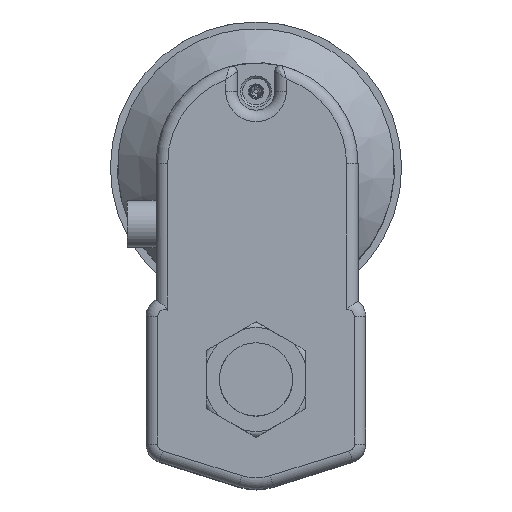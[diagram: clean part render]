
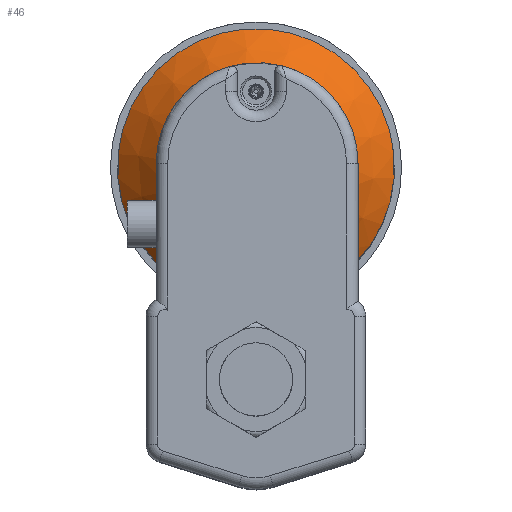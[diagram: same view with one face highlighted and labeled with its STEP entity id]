
A CAD part, top view. The second image highlights one B-rep face of the part: STEP entity #46.
In plain terms, the highlighted conical face has half-angle 45 degrees and reference radius 48 mm.
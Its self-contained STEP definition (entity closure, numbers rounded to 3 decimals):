
#46 = ADVANCED_FACE ( 'NONE', ( #5497, #5491 ), #5498, .T. ) ;
#1046 = CARTESIAN_POINT ( 'NONE',  ( -27.908, 34.847, 53.5 ) ) ;
#1048 = CARTESIAN_POINT ( 'NONE',  ( 0., 73.9, 53.5 ) ) ;
#1049 = DIRECTION ( 'NONE',  ( 0., 0., 1. ) ) ;
#1050 = DIRECTION ( 'NONE',  ( 0., -1., 0. ) ) ;
#1052 = CARTESIAN_POINT ( 'NONE',  ( 0., 73.9, 67.5 ) ) ;
#1053 = CARTESIAN_POINT ( 'NONE',  ( -26.826, 34.768, 54.065 ) ) ;
#1054 = CARTESIAN_POINT ( 'NONE',  ( -25.733, 34.688, 54.609 ) ) ;
#1055 = CARTESIAN_POINT ( 'NONE',  ( -23.531, 34.53, 55.644 ) ) ;
#1056 = CARTESIAN_POINT ( 'NONE',  ( -22.421, 34.452, 56.137 ) ) ;
#1057 = CARTESIAN_POINT ( 'NONE',  ( -19.06, 34.223, 57.53 ) ) ;
#1058 = CARTESIAN_POINT ( 'NONE',  ( -16.779, 34.077, 58.344 ) ) ;
#1059 = CARTESIAN_POINT ( 'NONE',  ( -13.28, 33.887, 59.356 ) ) ;
#1060 = CARTESIAN_POINT ( 'NONE',  ( -12.101, 33.829, 59.657 ) ) ;
#1061 = CARTESIAN_POINT ( 'NONE',  ( -9.715, 33.725, 60.183 ) ) ;
#1062 = CARTESIAN_POINT ( 'NONE',  ( -8.505, 33.679, 60.407 ) ) ;
#1063 = CARTESIAN_POINT ( 'NONE',  ( -6.081, 33.605, 60.767 ) ) ;
#1064 = CARTESIAN_POINT ( 'NONE',  ( -4.863, 33.577, 60.903 ) ) ;
#1065 = CARTESIAN_POINT ( 'NONE',  ( -2.415, 33.538, 61.085 ) ) ;
#1066 = CARTESIAN_POINT ( 'NONE',  ( -1.188, 33.529, 61.13 ) ) ;
#1067 = CARTESIAN_POINT ( 'NONE',  ( 2.477, 33.529, 61.127 ) ) ;
#1068 = CARTESIAN_POINT ( 'NONE',  ( 4.908, 33.569, 60.942 ) ) ;
#1069 = CARTESIAN_POINT ( 'NONE',  ( 8.537, 33.68, 60.402 ) ) ;
#1070 = CARTESIAN_POINT ( 'NONE',  ( 9.746, 33.726, 60.177 ) ) ;
#1071 = CARTESIAN_POINT ( 'NONE',  ( 12.13, 33.83, 59.65 ) ) ;
#1072 = CARTESIAN_POINT ( 'NONE',  ( 13.307, 33.888, 59.348 ) ) ;
#1073 = CARTESIAN_POINT ( 'NONE',  ( 16.801, 34.078, 58.337 ) ) ;
#1074 = CARTESIAN_POINT ( 'NONE',  ( 19.078, 34.224, 57.523 ) ) ;
#1075 = CARTESIAN_POINT ( 'NONE',  ( 23.55, 34.529, 55.668 ) ) ;
#1076 = CARTESIAN_POINT ( 'NONE',  ( 25.745, 34.688, 54.629 ) ) ;
#1077 = CARTESIAN_POINT ( 'NONE',  ( 27.908, 34.847, 53.5 ) ) ;
#1081 = DIRECTION ( 'NONE',  ( 0., 0., 1. ) ) ;
#1082 = DIRECTION ( 'NONE',  ( 0., -1., 0. ) ) ;
#2344 = CARTESIAN_POINT ( 'NONE',  ( -27.908, 34.847, 53.5 ) ) ;
#2345 = CARTESIAN_POINT ( 'NONE',  ( 27.908, 34.847, 53.5 ) ) ;
#2465 = VERTEX_POINT ( 'NONE', #2466 ) ;
#2466 = CARTESIAN_POINT ( 'NONE',  ( 0., 39.9, 67.5 ) ) ;
#2943 = DIRECTION ( 'NONE',  ( 0., 0., -1. ) ) ;
#2945 = CARTESIAN_POINT ( 'NONE',  ( 0., 73.9, 53.5 ) ) ;
#2970 = DIRECTION ( 'NONE',  ( 0., 1., 0. ) ) ;
#3099 = B_SPLINE_CURVE_WITH_KNOTS ( 'NONE', 3,
 ( #1046, #1053, #1054, #1055, #1056, #1057, #1058, #1059, #1060, #1061, #1062, #1063, #1064, #1065, #1066, #1067, #1068, #1069, #1070, #1071, #1072, #1073, #1074, #1075, #1076, #1077 ),
 .UNSPECIFIED., .F., .F.,
 ( 4, 2, 2, 2, 2, 2, 2, 2, 2, 2, 2, 2, 4 ),
 ( 0., 0.004, 0.007, 0.015, 0.018, 0.022, 0.026, 0.029, 0.037, 0.04, 0.044, 0.051, 0.059 ),
 .UNSPECIFIED. ) ;
#3403 = ORIENTED_EDGE ( 'NONE', *, *, #3945, .F. ) ;
#3404 = ORIENTED_EDGE ( 'NONE', *, *, #3942, .T. ) ;
#3405 = ORIENTED_EDGE ( 'NONE', *, *, #3943, .T. ) ;
#3942 = EDGE_CURVE ( 'NONE', #5679, #5678, #4884, .T. ) ;
#3943 = EDGE_CURVE ( 'NONE', #5678, #5679, #3099, .T. ) ;
#3945 = EDGE_CURVE ( 'NONE', #2465, #2465, #4885, .T. ) ;
#4036 = AXIS2_PLACEMENT_3D ( 'NONE', #2945, #2943, #2970 ) ;
#4884 = CIRCLE ( 'NONE', #5157, 48. ) ;
#4885 = CIRCLE ( 'NONE', #5161, 34. ) ;
#5157 = AXIS2_PLACEMENT_3D ( 'NONE', #1048, #1049, #1050 ) ;
#5161 = AXIS2_PLACEMENT_3D ( 'NONE', #1052, #1081, #1082 ) ;
#5369 = EDGE_LOOP ( 'NONE', ( #3403 ) ) ;
#5373 = EDGE_LOOP ( 'NONE', ( #3404, #3405 ) ) ;
#5491 = FACE_OUTER_BOUND ( 'NONE', #5373, .T. ) ;
#5497 = FACE_BOUND ( 'NONE', #5369, .T. ) ;
#5498 = CONICAL_SURFACE ( 'NONE', #4036, 48., 0.785 ) ;
#5678 = VERTEX_POINT ( 'NONE', #2344 ) ;
#5679 = VERTEX_POINT ( 'NONE', #2345 ) ;
